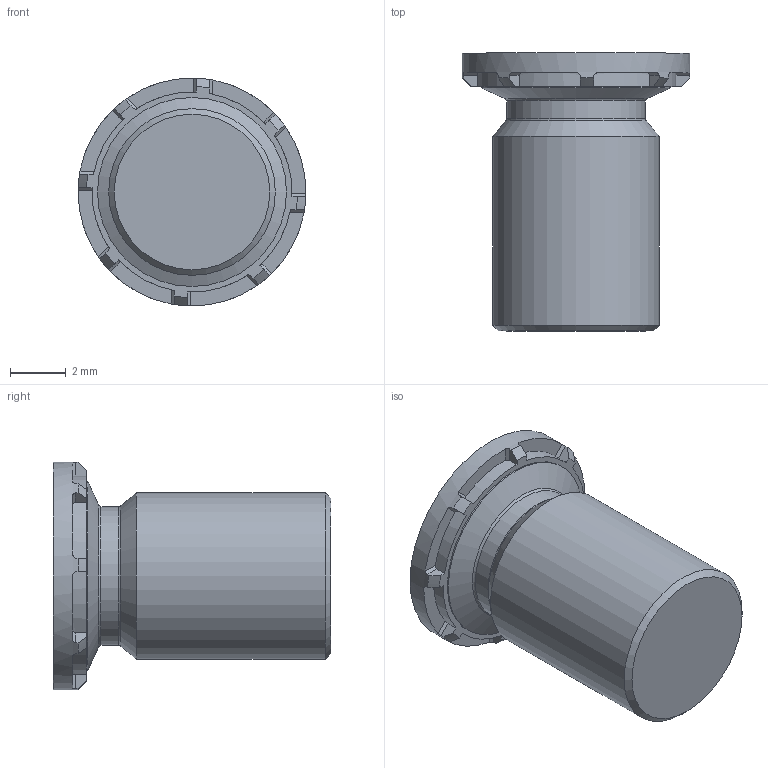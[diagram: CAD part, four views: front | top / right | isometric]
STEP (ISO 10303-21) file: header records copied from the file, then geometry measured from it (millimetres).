
FILE_DESCRIPTION(/* description */ (''),/* implementation_level */ '2;1');
FILE_NAME(/* name */ 'C:\Users\keval.kumar\Desktop\Fastit\Clinch Screw- FH Range\M6\Clinch Screw-FH Range_M6x10.stp',/* time_stamp */ '2024-03-12T12:06:17+06:00',/* author */ ('keval.kumar'),/* organization */ (''),/* preprocessor_version */ 'ST-DEVELOPER v18.1',/* originating_system */ 'Autodesk Inventor 2022',/* authorisation */ '');
FILE_SCHEMA (('AUTOMOTIVE_DESIGN { 1 0 10303 214 3 1 1 }'));
Length unit declared in the file: millimetre
Products named in the file (1): Clinch Screw-FH Range_M6x10
Bounding box: 8.2 x 10 x 8.2 mm (x, y, z)
Volume: 297.7 mm3; surface area: 303 mm2
Topology: 1 solids, 1 shells, 68 faces, 193 edges, 128 vertices
Faces by surface type: plane 43, cylinder 12, cone 11, torus 2
Full cylindrical faces by diameter (mm): 5 x1, 6 x1, 6.8 x1, 8.2 x1
Entity records: 2278 total; most frequent: CARTESIAN_POINT 422, DIRECTION 405, ORIENTED_EDGE 386, EDGE_CURVE 193, AXIS2_PLACEMENT_3D 159, VERTEX_POINT 128, LINE 87, VECTOR 87
